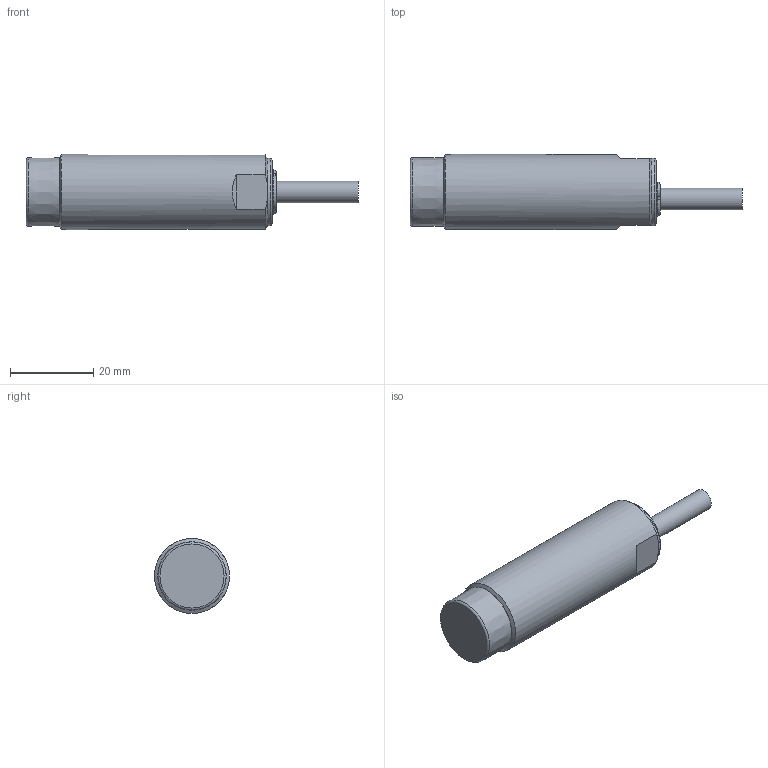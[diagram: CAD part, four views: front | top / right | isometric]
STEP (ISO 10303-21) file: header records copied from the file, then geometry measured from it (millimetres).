
FILE_DESCRIPTION(/* description */ (''),/* implementation_level */ '2;1');
FILE_NAME(/* name */ 'V:\AUTOCAD\_tegninger\Stepfiles - 3D\ICS\ICS18xxxxxxxxE1\ICS18L50N14xxB2E1.stp',/* time_stamp */ '2020-08-05T13:55:08+02:00',/* author */ ('TVB'),/* organization */ (''),/* preprocessor_version */ 'ST-DEVELOPER v18',/* originating_system */ 'Autodesk Inventor 2020',/* authorisation */ '');
FILE_SCHEMA (('AUTOMOTIVE_DESIGN { 1 0 10303 214 3 1 1 }'));
Length unit declared in the file: millimetre
Products named in the file (1): ICS18L50N14xxB2E1
Bounding box: 79.64 x 18 x 18 mm (x, y, z)
Volume: 14957.4 mm3; surface area: 4316.7 mm2
Topology: 1 solids, 1 shells, 54 faces, 131 edges, 83 vertices
Faces by surface type: torus 17, cylinder 13, plane 12, cone 8, bspline 4
Full cylindrical faces by diameter (mm): 5.2 x1, 14.22 x1, 14.9 x1, 15.2 x1, 18 x1
Entity records: 1745 total; most frequent: DIRECTION 327, CARTESIAN_POINT 309, ORIENTED_EDGE 262, AXIS2_PLACEMENT_3D 149, EDGE_CURVE 131, CIRCLE 95, VERTEX_POINT 83, EDGE_LOOP 60
